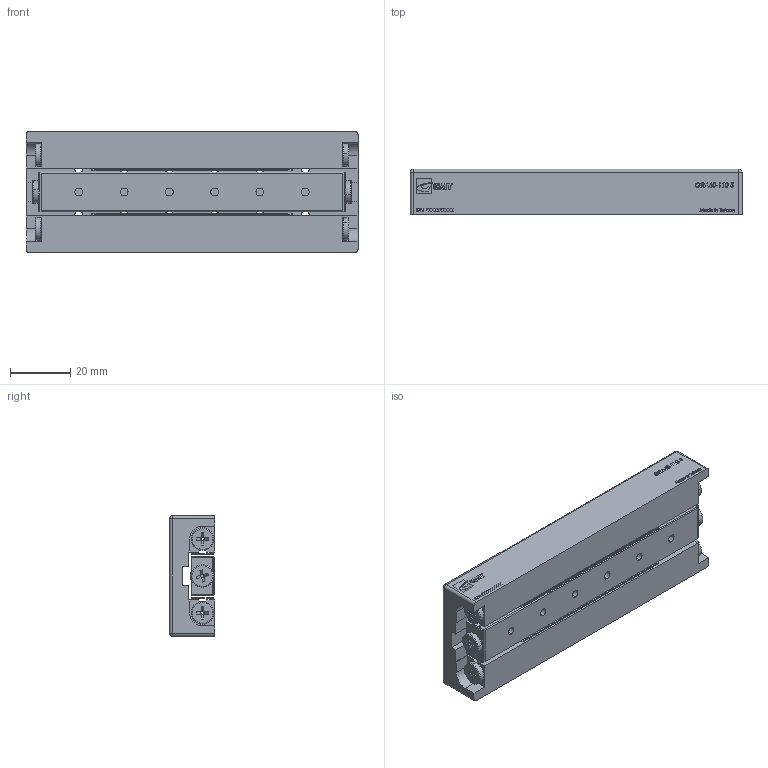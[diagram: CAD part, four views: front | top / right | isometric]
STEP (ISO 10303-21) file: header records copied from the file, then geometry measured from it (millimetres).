
FILE_DESCRIPTION (( 'STEP AP203' ), '1' );
FILE_NAME ('GRA40-110-S.STEP', '2013-12-14T06:21:40', ( '' ), ( '' ), 'SwSTEP 2.0', 'SolidWorks 2013', '' );
FILE_SCHEMA (( 'CONFIG_CONTROL_DESIGN' ));
Length unit declared in the file: millimetre
Products named in the file (1): GRA40-110-S
Bounding box: 110 x 15 x 40 mm (x, y, z)
Surface area: 21813.3 mm2 (no closed solid volume)
Topology: 0 solids, 52 shells, 337 faces, 2103 edges, 1782 vertices
Faces by surface type: plane 215, cylinder 68, torus 24, cone 24, sphere 4, bspline 2
Entity records: 23933 total; most frequent: CARTESIAN_POINT 8617, DIRECTION 2775, ORIENTED_EDGE 2746, EDGE_CURVE 2099, VERTEX_POINT 1782, LINE 1399, VECTOR 1399, AXIS2_PLACEMENT_3D 688
